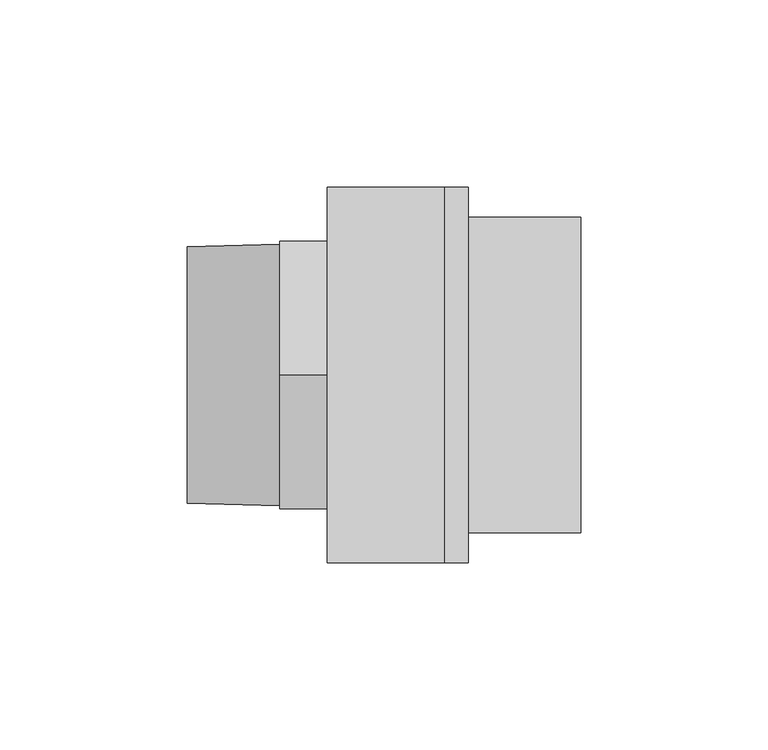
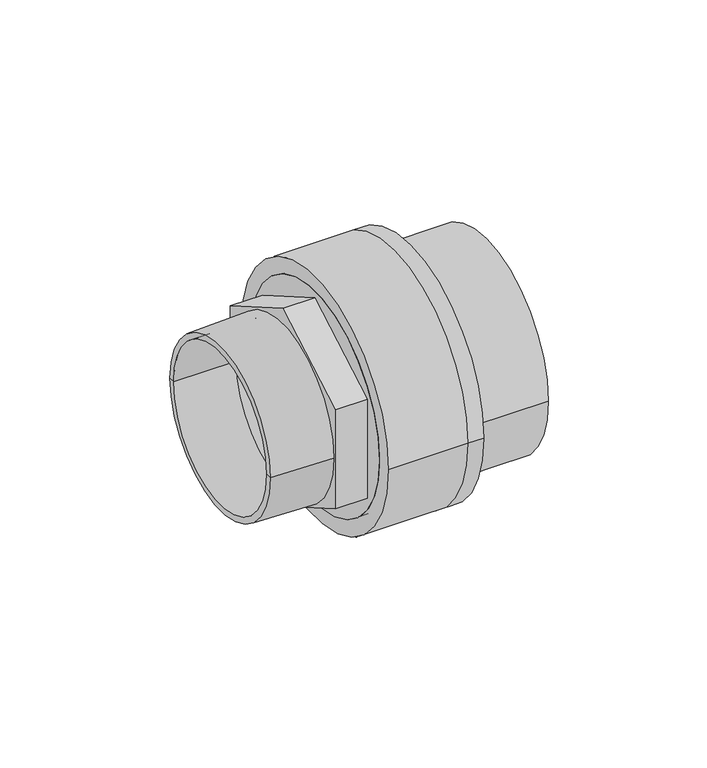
"""IFC4 building model written with IfcOpenShell, lengths in millimetres: valve geometry, Aquatherm - Transition Piece - M HEX : POTABLE BRASS."""

from ifc_helpers import new_model, si_unit, frame, origin, place, context, project, spatial, polyline, circle_curve, source, transform, mapped, element, save
from ifc_brep_helpers import plane_surface, cylinder_surface, revolved_surface, advanced_brep


def valve_e056c01d(model_context):
    return source(origin(), model_context, "Body", "AdvancedBrep", [
        advanced_brep(
        [(31.242, -43.815, 0.0), (31.242, 43.815, 0.0), (31.242, -31.75, 0.0), (31.242, 31.75, 0.0), (0.0, -43.815, 0.0), (0.0, 43.815, 0.0), (0.0, 0.0, -41.2077981), (0.0, 35.687, -20.6038991), (0.0, 35.687, 20.6038991), (0.0, 0.0, 41.2077981), (0.0, -35.687, 20.6038991), (0.0, -35.687, -20.6038991), (0.0, -31.75, 0.0), (0.0, 31.75, 0.0), (-12.7, 0.0, -41.2077981), (-12.7, -35.687, -20.6038991), (-12.7, -35.687, 20.6038991), (-12.7, 0.0, 41.2077981), (-12.7, 35.687, 20.6038991), (-12.7, 35.687, -20.6038991), (-12.7, -34.8609144, 0.0), (-12.7, 34.8609144, 0.0), (-12.7, -31.75, 0.0), (-12.7, 31.75, 0.0), (-37.338, 31.75, 0.0), (-37.338, -31.75, 0.0), (-37.338, 34.1953356, 0.0), (-37.338, -34.1953356, 0.0)],
        [
            (0, 1, circle_curve(frame((31.242, 0.0, 0.0), z_axis=(1.0, 0.0, 0.0), x_axis=(0.0, 1.0, 0.0)), 43.815)),
            (1, 0, circle_curve(frame((31.242, 0.0, 0.0), z_axis=(1.0, 0.0, 0.0), x_axis=(0.0, 1.0, 0.0)), 43.815)),
            (2, 3, circle_curve(frame((31.242, 0.0, 0.0), z_axis=(-1.0, 0.0, 0.0), x_axis=(0.0, 1.0, 0.0)), 31.75)),
            (3, 2, circle_curve(frame((31.242, 0.0, 0.0), z_axis=(-1.0, 0.0, 0.0), x_axis=(0.0, 1.0, 0.0)), 31.75)),
            (4, 5, circle_curve(frame((0.0, 0.0, 0.0), z_axis=(-1.0, 0.0, 0.0), x_axis=(0.0, 1.0, 0.0)), 43.815)),
            (5, 4, circle_curve(frame((0.0, 0.0, 0.0), z_axis=(-1.0, 0.0, 0.0), x_axis=(0.0, 1.0, 0.0)), 43.815)),
            (6, 7),
            (7, 8),
            (8, 9),
            (9, 10),
            (10, 11),
            (11, 6),
            (0, 4),
            (5, 1),
            (2, 12),
            (12, 13, circle_curve(frame((0.0, 0.0, 0.0), z_axis=(-1.0, 0.0, 0.0), x_axis=(0.0, 1.0, 0.0)), 31.75)),
            (13, 3),
            (13, 12, circle_curve(frame((0.0, 0.0, 0.0), z_axis=(-1.0, 0.0, 0.0), x_axis=(0.0, 1.0, 0.0)), 31.75)),
            (14, 15),
            (15, 16),
            (16, 17),
            (17, 18),
            (18, 19),
            (19, 14),
            (20, 21, circle_curve(frame((-12.7, 0.0, 0.0), z_axis=(1.0, 0.0, 0.0), x_axis=(0.0, 1.0, 0.0)), 34.8609144)),
            (21, 20, circle_curve(frame((-12.7, 0.0, 0.0), z_axis=(1.0, 0.0, 0.0), x_axis=(0.0, 1.0, 0.0)), 34.8609144)),
            (19, 7),
            (6, 14),
            (18, 8),
            (17, 9),
            (16, 10),
            (15, 11),
            (12, 22),
            (22, 23, circle_curve(frame((-12.7, 0.0, 0.0), z_axis=(-1.0, 0.0, 0.0), x_axis=(0.0, 1.0, 0.0)), 31.75)),
            (23, 13),
            (23, 22, circle_curve(frame((-12.7, 0.0, 0.0), z_axis=(-1.0, 0.0, 0.0), x_axis=(0.0, 1.0, 0.0)), 31.75)),
            (23, 24),
            (24, 25, circle_curve(frame((-37.338, 0.0, 0.0), z_axis=(-1.0, 0.0, 0.0), x_axis=(0.0, 1.0, 0.0)), 31.75)),
            (25, 22),
            (25, 24, circle_curve(frame((-37.338, 0.0, 0.0), z_axis=(-1.0, 0.0, 0.0), x_axis=(0.0, 1.0, 0.0)), 31.75)),
            (24, 26),
            (26, 27, circle_curve(frame((-37.338, 0.0, 0.0), z_axis=(-1.0, 0.0, 0.0), x_axis=(0.0, 1.0, 0.0)), 34.1953356)),
            (27, 25),
            (27, 26, circle_curve(frame((-37.338, 0.0, 0.0), z_axis=(-1.0, 0.0, 0.0), x_axis=(0.0, 1.0, 0.0)), 34.1953356)),
            (26, 21),
            (20, 27),
        ],
        [
            plane_surface(frame((31.242, 43.815, 0.0), z_axis=(1.0, 0.0, 0.0), x_axis=(0.0, 0.0, 1.0))),
            plane_surface(frame((0.0, 43.815, 0.0), z_axis=(-1.0, 0.0, 0.0), x_axis=(0.0, 0.0, -1.0))),
            cylinder_surface(frame((0.0, 0.0, 0.0), z_axis=(1.0, 0.0, 0.0), x_axis=(0.0, 1.0, 0.0)), 43.815),
            revolved_surface(polyline([(0.0, 31.75, 0.0), (31.242, 31.75, 0.0)]), (17.447219, 0.0, 0.0), (-1.0, 0.0, 0.0)),
            plane_surface(frame((-12.7, 0.0, -41.2077981), z_axis=(-1.0, 0.0, 0.0), x_axis=(0.0, -0.8660254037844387, -0.4999999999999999))),
            plane_surface(frame((0.0, 0.0, -41.2077981), z_axis=(0.0, 0.4999999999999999, -0.8660254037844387), x_axis=(-1.0, 0.0, 0.0))),
            plane_surface(frame((0.0, 35.687, -20.6038991), z_axis=(0.0, 1.0, 0.0), x_axis=(-1.0, 0.0, 0.0))),
            plane_surface(frame((0.0, 35.687, 20.6038991), z_axis=(0.0, 0.49999999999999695, 0.8660254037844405), x_axis=(-1.0, 0.0, 0.0))),
            plane_surface(frame((0.0, 0.0, 41.2077981), z_axis=(0.0, -0.500000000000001, 0.866025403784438), x_axis=(-1.0, 0.0, 0.0))),
            plane_surface(frame((0.0, -35.687, 20.6038991), z_axis=(0.0, -1.0, 0.0), x_axis=(-1.0, 0.0, 0.0))),
            plane_surface(frame((0.0, -35.687, -20.6038991), z_axis=(0.0, -0.49999999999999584, -0.866025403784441), x_axis=(-1.0, 0.0, 0.0))),
            revolved_surface(polyline([(-12.7, 31.75, 0.0), (0.0, 31.75, 0.0)]), (0.0, 0.0, 0.0), (-1.0, 0.0, 0.0)),
            revolved_surface(polyline([(-37.338, 31.75, 0.0), (-12.700000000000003, 31.75, 0.0)]), (-72.2110688, 0.0, 0.0), (-1.0, 0.0, 0.0)),
            plane_surface(frame((-37.338, 0.0, 0.0), z_axis=(-1.0, 0.0, 0.0), x_axis=(0.0, 1.0, 0.0))),
            revolved_surface(polyline([(-12.7, 34.8609144, 0.0), (-37.338, 34.1953356, 0.0)]), (-72.2110688, 0.0, 0.0), (-1.0, 0.0, 0.0)),
        ],
        [
            (0, [[1, 2], [3, 4]]),
            (1, [[5, 6], [7, 8, 9, 10, 11, 12]]),
            (2, [[-1, 13, -6, 14]]),
            (2, [[-2, -14, -5, -13]]),
            (3, [[-3, 15, 16, 17]]),
            (3, [[-4, -17, 18, -15]]),
            (4, [[19, 20, 21, 22, 23, 24], [25, 26]]),
            (5, [[-24, 27, -7, 28]]),
            (6, [[-23, 29, -8, -27]]),
            (7, [[-22, 30, -9, -29]]),
            (8, [[-21, 31, -10, -30]]),
            (9, [[-20, 32, -11, -31]]),
            (10, [[-19, -28, -12, -32]]),
            (11, [[33, 34, 35, -16]]),
            (11, [[-33, -18, -35, 36]]),
            (12, [[37, 38, 39, -36]]),
            (12, [[-37, -34, -39, 40]]),
            (13, [[-38, 41, 42, 43]]),
            (13, [[-40, -43, 44, -41]]),
            (14, [[-42, 45, -25, 46]]),
            (14, [[-44, -46, -26, -45]]),
        ],
    ),
        advanced_brep(
        [(0.0, -50.038, 0.0), (0.0, 50.038, 0.0), (0.0, -43.815, 0.0), (0.0, 43.815, 0.0), (31.242, 50.038, 0.0), (31.242, -50.038, 0.0), (31.242, 43.815, 0.0), (31.242, -43.815, 0.0), (37.592, -50.038, 0.0), (37.592, 50.038, 0.0), (37.592, 42.037, 0.0), (37.592, -42.037, 0.0), (37.592, 37.465, 0.0), (37.592, -37.465, 0.0), (37.592, -31.75, 0.0), (37.592, 31.75, 0.0), (31.242, -31.75, 0.0), (31.242, 31.75, 0.0), (67.564, -42.037, 0.0), (67.564, 42.037, 0.0), (67.564, -37.465, 0.0), (67.564, 37.465, 0.0)],
        [
            (0, 1, circle_curve(frame((0.0, 0.0, 0.0), z_axis=(-1.0, 0.0, 0.0), x_axis=(0.0, 1.0, 0.0)), 50.038)),
            (1, 0, circle_curve(frame((0.0, 0.0, 0.0), z_axis=(-1.0, 0.0, 0.0), x_axis=(0.0, 1.0, 0.0)), 50.038)),
            (2, 3, circle_curve(frame((0.0, 0.0, 0.0), z_axis=(1.0, 0.0, 0.0), x_axis=(0.0, 1.0, 0.0)), 43.815)),
            (3, 2, circle_curve(frame((0.0, 0.0, 0.0), z_axis=(1.0, 0.0, 0.0), x_axis=(0.0, 1.0, 0.0)), 43.815)),
            (1, 4),
            (4, 5, circle_curve(frame((31.242, 0.0, 0.0), z_axis=(-1.0, 0.0, 0.0), x_axis=(0.0, 1.0, 0.0)), 50.038)),
            (5, 0),
            (5, 4, circle_curve(frame((31.242, 0.0, 0.0), z_axis=(-1.0, 0.0, 0.0), x_axis=(0.0, 1.0, 0.0)), 50.038)),
            (3, 6),
            (6, 7, circle_curve(frame((31.242, 0.0, 0.0), z_axis=(1.0, 0.0, 0.0), x_axis=(0.0, 1.0, 0.0)), 43.815)),
            (7, 2),
            (7, 6, circle_curve(frame((31.242, 0.0, 0.0), z_axis=(1.0, 0.0, 0.0), x_axis=(0.0, 1.0, 0.0)), 43.815)),
            (8, 9, circle_curve(frame((37.592, 0.0, 0.0), z_axis=(1.0, 0.0, 0.0), x_axis=(0.0, 1.0, 0.0)), 50.038)),
            (9, 8, circle_curve(frame((37.592, 0.0, 0.0), z_axis=(1.0, 0.0, 0.0), x_axis=(0.0, 1.0, 0.0)), 50.038)),
            (10, 11, circle_curve(frame((37.592, 0.0, 0.0), z_axis=(-1.0, 0.0, 0.0), x_axis=(0.0, 1.0, 0.0)), 42.037)),
            (11, 10, circle_curve(frame((37.592, 0.0, 0.0), z_axis=(-1.0, 0.0, 0.0), x_axis=(0.0, 1.0, 0.0)), 42.037)),
            (12, 13, circle_curve(frame((37.592, 0.0, 0.0), z_axis=(1.0, 0.0, 0.0), x_axis=(0.0, 1.0, 0.0)), 37.465)),
            (13, 12, circle_curve(frame((37.592, 0.0, 0.0), z_axis=(1.0, 0.0, 0.0), x_axis=(0.0, 1.0, 0.0)), 37.465)),
            (14, 15, circle_curve(frame((37.592, 0.0, 0.0), z_axis=(-1.0, 0.0, 0.0), x_axis=(0.0, 1.0, 0.0)), 31.75)),
            (15, 14, circle_curve(frame((37.592, 0.0, 0.0), z_axis=(-1.0, 0.0, 0.0), x_axis=(0.0, 1.0, 0.0)), 31.75)),
            (16, 17, circle_curve(frame((31.242, 0.0, 0.0), z_axis=(1.0, 0.0, 0.0), x_axis=(0.0, 1.0, 0.0)), 31.75)),
            (17, 16, circle_curve(frame((31.242, 0.0, 0.0), z_axis=(1.0, 0.0, 0.0), x_axis=(0.0, 1.0, 0.0)), 31.75)),
            (8, 5),
            (4, 9),
            (14, 16),
            (17, 15),
            (18, 19, circle_curve(frame((67.564, 0.0, 0.0), z_axis=(1.0, 0.0, 0.0), x_axis=(0.0, 1.0, 0.0)), 42.037)),
            (19, 18, circle_curve(frame((67.564, 0.0, 0.0), z_axis=(1.0, 0.0, 0.0), x_axis=(0.0, 1.0, 0.0)), 42.037)),
            (20, 21, circle_curve(frame((67.564, 0.0, 0.0), z_axis=(-1.0, 0.0, 0.0), x_axis=(0.0, 1.0, 0.0)), 37.465)),
            (21, 20, circle_curve(frame((67.564, 0.0, 0.0), z_axis=(-1.0, 0.0, 0.0), x_axis=(0.0, 1.0, 0.0)), 37.465)),
            (18, 11),
            (10, 19),
            (20, 13),
            (12, 21),
        ],
        [
            plane_surface(frame((0.0, 50.038, 0.0), z_axis=(-1.0, 0.0, 0.0), x_axis=(0.0, 0.0, -1.0))),
            cylinder_surface(frame((0.0, 0.0, 0.0), z_axis=(1.0, 0.0, 0.0), x_axis=(0.0, 1.0, 0.0)), 50.038),
            revolved_surface(polyline([(0.0, 43.815, 0.0), (31.241999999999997, 43.815, 0.0)]), (-38.1, 0.0, 0.0), (-1.0, 0.0, 0.0)),
            plane_surface(frame((37.592, 50.038, 0.0), z_axis=(1.0, 0.0, 0.0), x_axis=(0.0, 0.0, 1.0))),
            plane_surface(frame((31.242, 50.038, 0.0), z_axis=(-1.0, 0.0, 0.0), x_axis=(0.0, 0.0, -1.0))),
            cylinder_surface(frame((31.242, 0.0, 0.0), z_axis=(1.0, 0.0, 0.0), x_axis=(0.0, 1.0, 0.0)), 50.038),
            revolved_surface(polyline([(31.242, 31.75, 0.0), (37.592, 31.75, 0.0)]), (-19.05, 0.0, 0.0), (-1.0, 0.0, 0.0)),
            plane_surface(frame((67.564, 42.037, 0.0), z_axis=(1.0, 0.0, 0.0), x_axis=(0.0, 0.0, 1.0))),
            cylinder_surface(frame((37.592, 0.0, 0.0), z_axis=(1.0, 0.0, 0.0), x_axis=(0.0, 1.0, 0.0)), 42.037),
            revolved_surface(polyline([(37.592, 37.465, 0.0), (67.564, 37.465, 0.0)]), (0.0, 0.0, 0.0), (-1.0, 0.0, 0.0)),
        ],
        [
            (0, [[1, 2], [3, 4]]),
            (1, [[-2, 5, 6, 7]]),
            (1, [[-1, -7, 8, -5]]),
            (2, [[-4, 9, 10, 11]]),
            (2, [[-3, -11, 12, -9]]),
            (3, [[13, 14], [15, 16]]),
            (3, [[17, 18], [19, 20]]),
            (4, [[-10, -12], [21, 22]]),
            (5, [[-13, 23, -6, 24]]),
            (5, [[-14, -24, -8, -23]]),
            (6, [[-19, 25, -22, 26]]),
            (6, [[-20, -26, -21, -25]]),
            (7, [[27, 28], [29, 30]]),
            (8, [[-27, 31, -15, 32]]),
            (8, [[-28, -32, -16, -31]]),
            (9, [[-29, 33, -17, 34]]),
            (9, [[-30, -34, -18, -33]]),
        ],
    ),
    ])


if __name__ == "__main__":
    model = new_model("IFC4")
    model_context = context("Model", 3, world=origin())
    ifc_project = project(units=[si_unit("LENGTHUNIT", "METRE", prefix="MILLI")], contexts=[model_context])
    site = spatial("IfcSite", under=ifc_project)
    building = spatial("IfcBuilding", under=site)
    placement = place(None, origin())
    valve_shape = valve_e056c01d(model_context)
    element("IfcValve", 1, ObjectType="Aquatherm - Transition Piece - M HEX : POTABLE BRASS", at=placement, inside=building, context=model_context, shape_type="MappedRepresentation", body=[
        mapped(valve_shape, transform((0.0, 0.0, 0.0), x_axis=(1.0, 0.0, 0.0), y_axis=(0.0, 1.0, 0.0), z_axis=(0.0, 0.0, 1.0))),
    ])
    save(model, "model.ifc")
